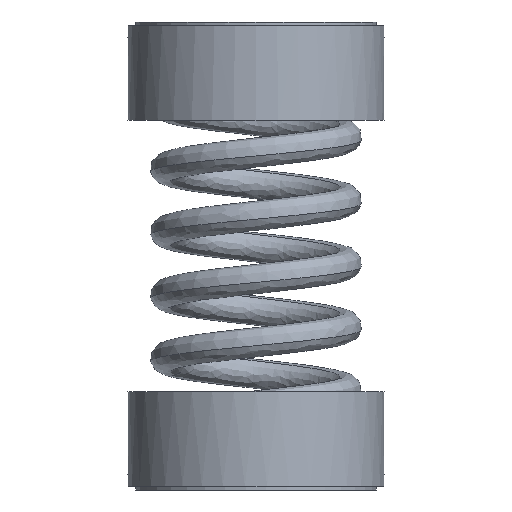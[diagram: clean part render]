
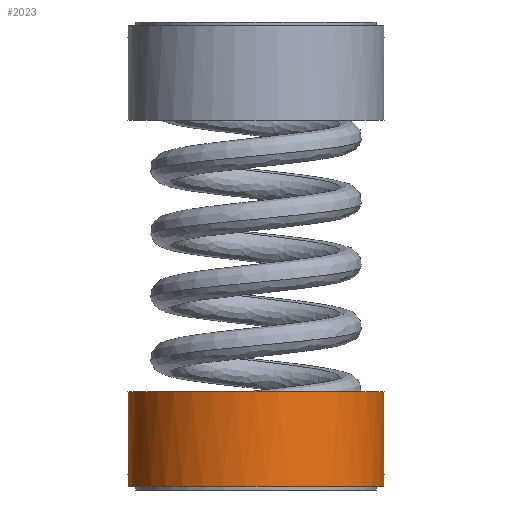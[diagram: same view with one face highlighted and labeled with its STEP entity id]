
A CAD part, left-side view. The second image highlights one B-rep face of the part: STEP entity #2023.
In plain terms, the highlighted cylindrical face has radius 26.988 mm (diameter 53.975 mm), a full revolution.
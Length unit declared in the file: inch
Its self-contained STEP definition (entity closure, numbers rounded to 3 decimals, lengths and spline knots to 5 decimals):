
#52=FACE_BOUND('',#351,.T.);
#228=FACE_OUTER_BOUND('',#350,.T.);
#350=EDGE_LOOP('',(#1565,#1566,#1567,#1568,#1569,#1570,#1571,#1572));
#351=EDGE_LOOP('',(#1573));
#456=LINE('',#11996,#598);
#480=LINE('',#12045,#622);
#484=LINE('',#12054,#626);
#509=LINE('',#12110,#651);
#598=VECTOR('',#2343,0.09375);
#622=VECTOR('',#2369,0.09375);
#626=VECTOR('',#2375,0.09375);
#651=VECTOR('',#2414,0.09375);
#719=CIRCLE('',#2114,1.0625);
#721=CIRCLE('',#2117,1.0625);
#737=CIRCLE('',#2147,1.0625);
#740=CIRCLE('',#2153,1.0625);
#741=CIRCLE('',#2155,1.0625);
#856=VERTEX_POINT('',#11993);
#857=VERTEX_POINT('',#11995);
#880=VERTEX_POINT('',#12042);
#881=VERTEX_POINT('',#12044);
#884=VERTEX_POINT('',#12051);
#885=VERTEX_POINT('',#12053);
#897=VERTEX_POINT('',#12082);
#909=VERTEX_POINT('',#12108);
#913=VERTEX_POINT('',#12148);
#1076=EDGE_CURVE('',#857,#856,#456,.T.);
#1100=EDGE_CURVE('',#881,#880,#480,.T.);
#1104=EDGE_CURVE('',#885,#884,#484,.T.);
#1117=EDGE_CURVE('',#856,#881,#719,.T.);
#1120=EDGE_CURVE('',#884,#897,#721,.T.);
#1133=EDGE_CURVE('',#897,#909,#509,.T.);
#1149=EDGE_CURVE('',#885,#880,#737,.T.);
#1152=EDGE_CURVE('',#913,#913,#740,.T.);
#1153=EDGE_CURVE('',#857,#909,#741,.T.);
#1565=ORIENTED_EDGE('',*,*,#1133,.T.);
#1566=ORIENTED_EDGE('',*,*,#1153,.F.);
#1567=ORIENTED_EDGE('',*,*,#1076,.T.);
#1568=ORIENTED_EDGE('',*,*,#1117,.T.);
#1569=ORIENTED_EDGE('',*,*,#1100,.T.);
#1570=ORIENTED_EDGE('',*,*,#1149,.F.);
#1571=ORIENTED_EDGE('',*,*,#1104,.T.);
#1572=ORIENTED_EDGE('',*,*,#1120,.T.);
#1573=ORIENTED_EDGE('',*,*,#1152,.T.);
#1826=CYLINDRICAL_SURFACE('',#2154,1.0625);
#2023=ADVANCED_FACE('',(#228,#52),#1826,.T.);
#2114=AXIS2_PLACEMENT_3D('',#12078,#2391,#2392);
#2117=AXIS2_PLACEMENT_3D('',#12084,#2398,#2399);
#2147=AXIS2_PLACEMENT_3D('',#12140,#2471,#2472);
#2153=AXIS2_PLACEMENT_3D('',#12149,#2483,#2484);
#2154=AXIS2_PLACEMENT_3D('',#12150,#2485,#2486);
#2155=AXIS2_PLACEMENT_3D('',#12151,#2487,#2488);
#2343=DIRECTION('',(0.,0.,1.));
#2369=DIRECTION('',(0.,0.,-1.));
#2375=DIRECTION('',(0.,0.,1.));
#2391=DIRECTION('center_axis',(0.,0.,
1.));
#2392=DIRECTION('ref_axis',(1.,0.,0.));
#2398=DIRECTION('center_axis',(0.,0.,
1.));
#2399=DIRECTION('ref_axis',(1.,0.,0.));
#2414=DIRECTION('',(0.,0.,-1.));
#2471=DIRECTION('center_axis',(0.,0.,
-1.));
#2472=DIRECTION('ref_axis',(1.,0.,0.));
#2483=DIRECTION('center_axis',(0.,0.,
-1.));
#2484=DIRECTION('ref_axis',(1.,0.,0.));
#2485=DIRECTION('center_axis',(0.,0.,
-1.));
#2486=DIRECTION('ref_axis',(1.,0.,0.));
#2487=DIRECTION('center_axis',(0.,0.,
-1.));
#2488=DIRECTION('ref_axis',(1.,0.,0.));
#11993=CARTESIAN_POINT('',(0.09375,1.05836,0.125));
#11995=CARTESIAN_POINT('',(0.09375,1.05836,0.03125));
#11996=CARTESIAN_POINT('',(0.09375,1.05836,0.42188));
#12042=CARTESIAN_POINT('',(-0.09375,1.05836,0.03125));
#12044=CARTESIAN_POINT('',(-0.09375,1.05836,0.125));
#12045=CARTESIAN_POINT('',(-0.09375,1.05836,0.42188));
#12051=CARTESIAN_POINT('',(-0.09375,-1.05836,0.125));
#12053=CARTESIAN_POINT('',(-0.09375,-1.05836,0.03125));
#12054=CARTESIAN_POINT('',(-0.09375,-1.05836,0.42188));
#12078=CARTESIAN_POINT('Origin',(0.,0.,
0.125));
#12082=CARTESIAN_POINT('',(0.09375,-1.05836,0.125));
#12084=CARTESIAN_POINT('Origin',(0.,0.,
0.125));
#12108=CARTESIAN_POINT('',(0.09375,-1.05836,0.03125));
#12110=CARTESIAN_POINT('',(0.09375,-1.05836,0.42188));
#12140=CARTESIAN_POINT('Origin',(0.,0.,
0.03125));
#12148=CARTESIAN_POINT('',(1.0625,0.,0.8125));
#12149=CARTESIAN_POINT('Origin',(0.,0.,
0.8125));
#12150=CARTESIAN_POINT('Origin',(0.,0.,
0.42188));
#12151=CARTESIAN_POINT('Origin',(0.,0.,
0.03125));
